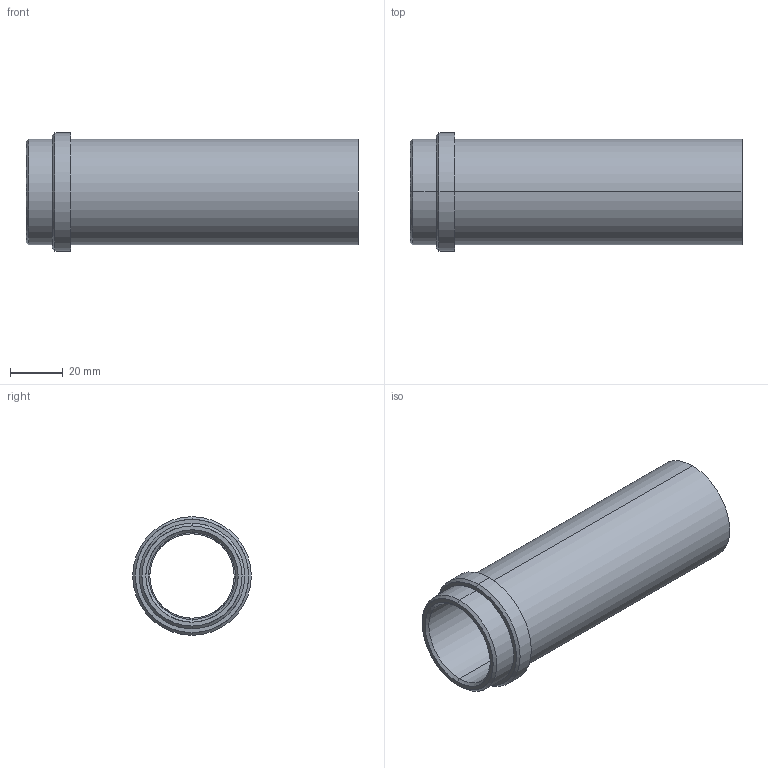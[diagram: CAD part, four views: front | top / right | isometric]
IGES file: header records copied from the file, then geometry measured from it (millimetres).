
Start section: START RECORD GO HERE.
Global section: file name: 358-32x126.igs; native system: DASSAULT SYSTEMES CATIA V5 R20 - www.3ds.com; preprocessor: CATIA Version 5 Release 20 ; author: Utente; organization: NB04-ASUS; date: 20210409.151150; units: millimetre
Bounding box: 126 x 45 x 45 mm (x, y, z)
Surface area: 30074.7 mm2 (no closed solid volume)
Topology: 0 solids, 0 shells, 23 faces, 148 edges, 148 vertices
Faces by surface type: revolution 18, plane 5
